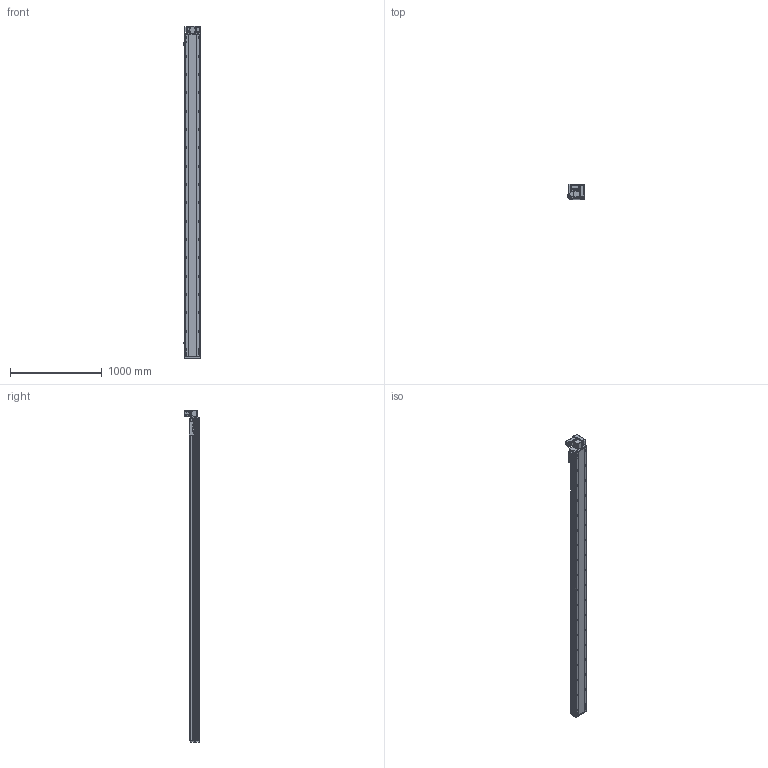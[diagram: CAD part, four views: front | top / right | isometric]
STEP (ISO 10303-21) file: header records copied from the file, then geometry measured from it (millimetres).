
FILE_DESCRIPTION (( 'STEP AP214' ), '1' );
FILE_NAME ('RTB17S-XX-3250-RW-M40-C4.STEP', '2025-12-11T09:19:12', ( '' ), ( '' ), 'SwSTEP 2.0', 'SolidWorks 2018', '' );
FILE_SCHEMA (( 'AUTOMOTIVE_DESIGN' ));
Length unit declared in the file: millimetre
Products named in the file (14): RTB14-L-017P^RTB17S-RW-々湍釱蚾饜-400W_RTB17S-XX-XX-RW-M40-C4; 400W侜督萇儂^RTB17S-XX-XX-RW-M40-C4; RMP17S-L-014-T20--々湍釱^RTB17S-RW-々湍釱蚾饜-400W_RTB17S-XX-XX-RW-M40-C4; RTB17S-XX-3250-RW-M40-C4; RTB17-R-011菁釱^RTB17S-XX-XX-RW-M40-C4; OMRON EE-SX672 传感器^RTB17S-XX-XX-RW-M40-C4; RTB14-L-008-M20--萇儂啣^RTB17S-RW-々湍釱蚾饜-400W_RTB17S-XX-XX-RW-M40-C4; RTB17S-L-004佪裝蹟譫蟀諉釱^RTB17S-XX-XX-RW-M40-C4; RTB17S-RW-々湍釱蚾饜-400W^RTB17S-XX-XX-RW-M40-C4; RTB14-L-005P--轴承塑胶压盖^RTB17S-RW-皮带座装配-400W_RTB17S-XX-XX-RW-M40-C4; RTB17S-L-001耜醱啣^RTB17S-XX-XX-RW-M40-C4; RTB17S-L-007奻裔^RTB17S-XX-XX-RW-M40-C4; RTB14-L-018P^RTB17S-RW-々湍釱蚾饜-400W_RTB17S-XX-XX-RW-M40-C4; RTH13-BL-012覜茼え俋离^RTB17S-XX-XX-RW-M40-C4
Assembly tree (16 placements, depth 3):
  RTB17S-XX-3250-RW-M40-C4
    RTB17-R-011菁釱^RTB17S-XX-XX-RW-M40-C4
    RTB17S-L-007奻裔^RTB17S-XX-XX-RW-M40-C4
    OMRON EE-SX672 传感器^RTB17S-XX-XX-RW-M40-C4  x3
    RTB17S-L-001耜醱啣^RTB17S-XX-XX-RW-M40-C4
    400W侜督萇儂^RTB17S-XX-XX-RW-M40-C4
    RTB17S-L-004佪裝蹟譫蟀諉釱^RTB17S-XX-XX-RW-M40-C4
    RTH13-BL-012覜茼え俋离^RTB17S-XX-XX-RW-M40-C4
    RTB17S-RW-々湍釱蚾饜-400W^RTB17S-XX-XX-RW-M40-C4
      RMP17S-L-014-T20--々湍釱^RTB17S-RW-々湍釱蚾饜-400W_RTB17S-XX-XX-RW-M40-C4
      RTB14-L-005P--轴承塑胶压盖^RTB17S-RW-皮带座装配-400W_RTB17S-XX-XX-RW-M40-C4
      RTB14-L-008-M20--萇儂啣^RTB17S-RW-々湍釱蚾饜-400W_RTB17S-XX-XX-RW-M40-C4
      RTB14-L-017P^RTB17S-RW-々湍釱蚾饜-400W_RTB17S-XX-XX-RW-M40-C4  x2
      RTB14-L-018P^RTB17S-RW-々湍釱蚾饜-400W_RTB17S-XX-XX-RW-M40-C4
Bounding box: 183.5 x 160.5 x 3622.5 mm (x, y, z)
Volume: 30717658.7 mm3; surface area: 3500769.1 mm2
Topology: 15 solids, 15 shells, 2397 faces, 6735 edges, 4401 vertices
Faces by surface type: plane 1092, cylinder 857, bspline 301, cone 139, torus 8
Entity records: 71849 total; most frequent: CARTESIAN_POINT 20540, ORIENTED_EDGE 10314, DIRECTION 9476, EDGE_CURVE 5157, VERTEX_POINT 3389, AXIS2_PLACEMENT_3D 3319, LINE 2838, VECTOR 2838
